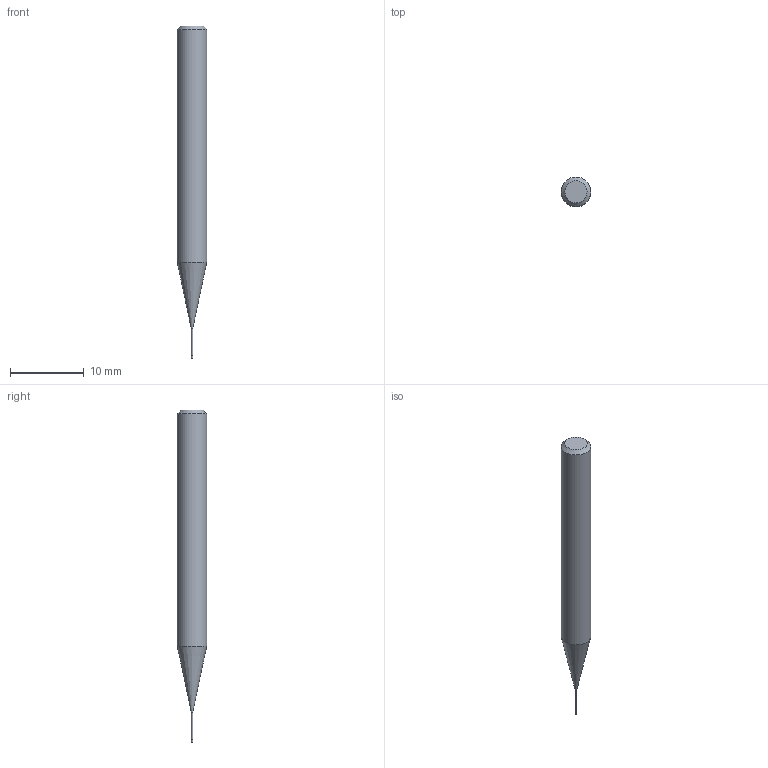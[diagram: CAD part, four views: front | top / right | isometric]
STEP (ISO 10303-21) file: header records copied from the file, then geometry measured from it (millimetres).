
FILE_DESCRIPTION((''),'2;1');
FILE_NAME('C:\Users\nsx150\AppData\Local\Temp\Mastercam 2021\17T8Q8S9EB\TEMP.step','2021-04-21T14:23:37',(''),(''),'STEP Write','Mastercam 2021 ... CNC Software, Inc.','');
FILE_SCHEMA(('AUTOMOTIVE_DESIGN'));
Length unit declared in the file: millimetre
Products named in the file (1): None
Bounding box: 4 x 4 x 45 mm (x, y, z)
Volume: 440.4 mm3; surface area: 473.5 mm2
Topology: 2 solids, 2 shells, 9 faces, 12 edges, 7 vertices
Faces by surface type: plane 4, cylinder 3, cone 2
Full cylindrical faces by diameter (mm): 0.18 x1, 0.2 x1, 4 x1
Entity records: 211 total; most frequent: DIRECTION 36, CARTESIAN_POINT 25, AXIS2_PLACEMENT_3D 18, ORIENTED_EDGE 14, EDGE_LOOP 14, STYLED_ITEM 12, ADVANCED_FACE 9, FACE_BOUND 8
